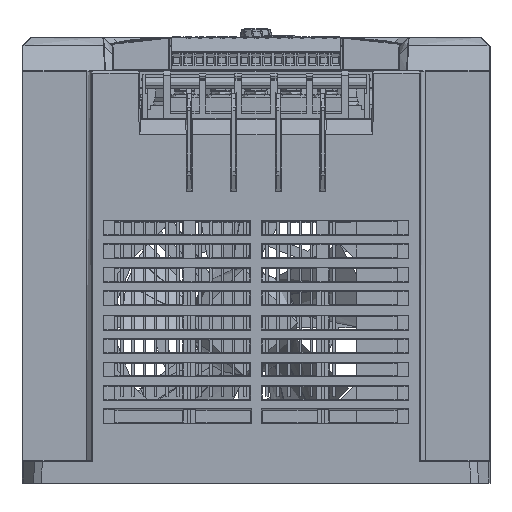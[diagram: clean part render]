
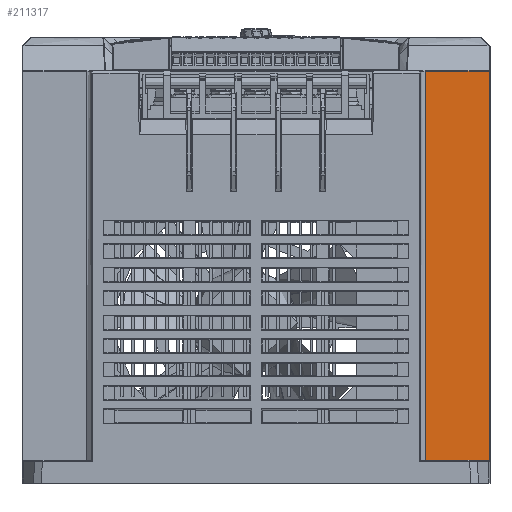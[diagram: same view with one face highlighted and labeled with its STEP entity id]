
A CAD part, front view. The second image highlights one B-rep face of the part: STEP entity #211317.
In plain terms, the highlighted planar face has unit normal (0, -1, 0).
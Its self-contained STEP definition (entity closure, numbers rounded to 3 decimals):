
#211317=ADVANCED_FACE('',(#304874),#304876,.F.);
#304874=FACE_BOUND('',#304875,.T.);
#304875=EDGE_LOOP('',(#357294,#357295,#357296,#357297));
#304876=PLANE('',#304877);
#304877=AXIS2_PLACEMENT_3D('',#304878,#304879,#304880);
#304878=CARTESIAN_POINT('',(105.308,24.53,224.));
#304879=DIRECTION('',(0.,1.,0.));
#304880=DIRECTION('',(-1.,0.,0.));
#357294=ORIENTED_EDGE('',*,*,#419236,.T.);
#357295=ORIENTED_EDGE('',*,*,#419237,.T.);
#357296=ORIENTED_EDGE('',*,*,#419238,.T.);
#357297=ORIENTED_EDGE('',*,*,#419239,.T.);
#419236=EDGE_CURVE('',#609467,#609468,#609469,.T.);
#419237=EDGE_CURVE('',#609468,#609470,#609471,.T.);
#419238=EDGE_CURVE('',#609470,#609472,#609473,.T.);
#419239=EDGE_CURVE('',#609472,#609467,#609474,.T.);
#609467=VERTEX_POINT('',#655270);
#609468=VERTEX_POINT('',#655271);
#609469=LINE('',#655272,#655273);
#609470=VERTEX_POINT('',#655275);
#609471=LINE('',#655276,#655277);
#609472=VERTEX_POINT('',#655279);
#609473=LINE('',#655280,#655281);
#609474=LINE('',#655283,#655284);
#655270=CARTESIAN_POINT('',(75.983,24.53,208.855));
#655271=CARTESIAN_POINT('',(75.983,24.53,34.297));
#655272=CARTESIAN_POINT('',(75.983,24.53,208.855));
#655273=VECTOR('',#655274,1.);
#655274=DIRECTION('',(0.,0.,-1.));
#655275=CARTESIAN_POINT('',(104.7,24.53,34.297));
#655276=CARTESIAN_POINT('',(75.983,24.53,34.297));
#655277=VECTOR('',#655278,1.);
#655278=DIRECTION('',(1.,0.,0.));
#655279=CARTESIAN_POINT('',(104.7,24.53,208.855));
#655280=CARTESIAN_POINT('',(104.7,24.53,34.297));
#655281=VECTOR('',#655282,1.);
#655282=DIRECTION('',(0.,0.,1.));
#655283=CARTESIAN_POINT('',(104.7,24.53,208.855));
#655284=VECTOR('',#655285,1.);
#655285=DIRECTION('',(-1.,0.,0.));
